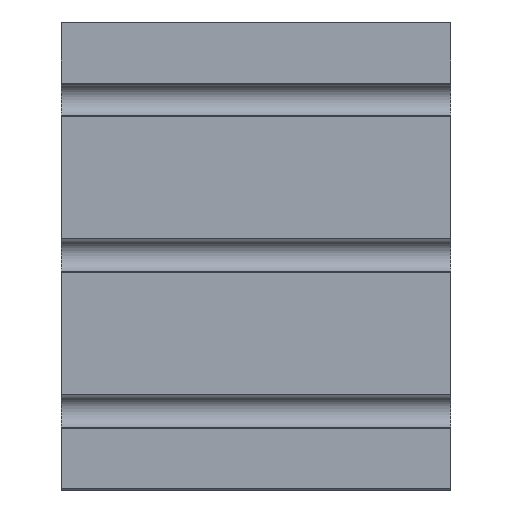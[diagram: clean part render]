
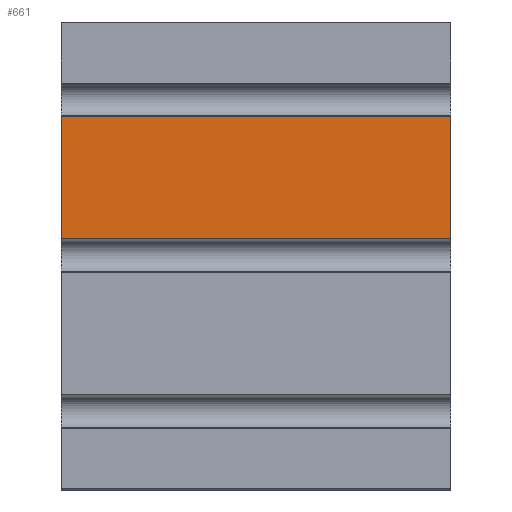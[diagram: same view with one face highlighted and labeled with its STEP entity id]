
A CAD part, top view. The second image highlights one B-rep face of the part: STEP entity #661.
In plain terms, the highlighted planar face has unit normal (0, 0, 1).
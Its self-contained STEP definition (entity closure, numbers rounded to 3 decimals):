
#661=ADVANCED_FACE('',(#2075),#2077,.T.);
#2075=FACE_BOUND('',#2076,.T.);
#2076=EDGE_LOOP('',(#3078,#3079,#3080,#3081));
#2077=PLANE('',#2078);
#2078=AXIS2_PLACEMENT_3D('',#2079,#2080,#2081);
#2079=CARTESIAN_POINT('',(-50.,35.65,10.));
#2080=DIRECTION('',(0.,0.,1.));
#2081=DIRECTION('',(0.,-1.,0.));
#3078=ORIENTED_EDGE('',*,*,#4032,.T.);
#3079=ORIENTED_EDGE('',*,*,#4033,.T.);
#3080=ORIENTED_EDGE('',*,*,#4034,.F.);
#3081=ORIENTED_EDGE('',*,*,#4030,.F.);
#4030=EDGE_CURVE('',#4673,#4675,#4676,.T.);
#4032=EDGE_CURVE('',#4673,#4678,#4679,.T.);
#4033=EDGE_CURVE('',#4678,#4680,#4681,.T.);
#4034=EDGE_CURVE('',#4675,#4680,#4682,.T.);
#4673=VERTEX_POINT('',#5969);
#4675=VERTEX_POINT('',#5974);
#4676=LINE('',#5975,#5976);
#4678=VERTEX_POINT('',#5982);
#4679=LINE('',#5983,#5984);
#4680=VERTEX_POINT('',#5986);
#4681=LINE('',#5987,#5988);
#4682=LINE('',#5990,#5991);
#5969=CARTESIAN_POINT('',(-50.,35.65,10.));
#5974=CARTESIAN_POINT('',(50.,35.65,10.));
#5975=CARTESIAN_POINT('',(-50.,35.65,10.));
#5976=VECTOR('',#5977,1.);
#5977=DIRECTION('',(1.,0.,0.));
#5982=CARTESIAN_POINT('',(-50.,4.35,10.));
#5983=CARTESIAN_POINT('',(-50.,35.65,10.));
#5984=VECTOR('',#5985,1.);
#5985=DIRECTION('',(0.,-1.,0.));
#5986=CARTESIAN_POINT('',(50.,4.35,10.));
#5987=CARTESIAN_POINT('',(-50.,4.35,10.));
#5988=VECTOR('',#5989,1.);
#5989=DIRECTION('',(1.,0.,0.));
#5990=CARTESIAN_POINT('',(50.,35.65,10.));
#5991=VECTOR('',#5992,1.);
#5992=DIRECTION('',(0.,-1.,0.));
